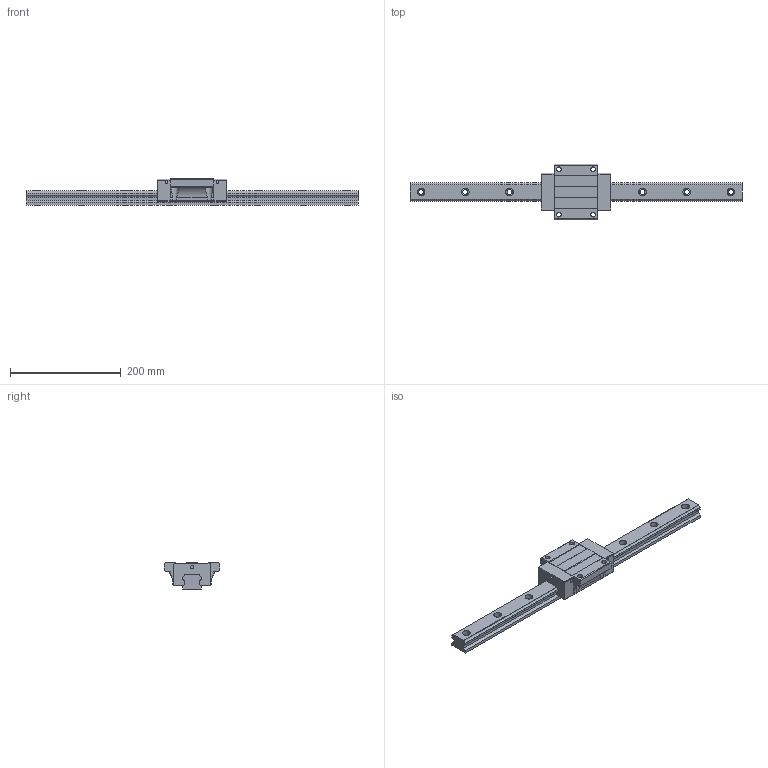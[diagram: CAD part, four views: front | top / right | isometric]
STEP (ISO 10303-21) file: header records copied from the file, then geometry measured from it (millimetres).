
FILE_DESCRIPTION (( 'STEP AP203' ), '1' );
FILE_NAME ('TRH35FN-DU.STEP', '2024-06-28T02:41:21', ( '' ), ( '' ), 'SwSTEP 2.0', 'SolidWorks 2022', '' );
FILE_SCHEMA (( 'CONFIG_CONTROL_DESIGN' ));
Length unit declared in the file: millimetre
Products named in the file (1): TRH35FN-DU
Bounding box: 600 x 100 x 48 mm (x, y, z)
Volume: 752376 mm3; surface area: 127306.8 mm2
Topology: 2 solids, 2 shells, 212 faces, 580 edges, 386 vertices
Faces by surface type: cylinder 112, plane 100
Entity records: 7449 total; most frequent: CARTESIAN_POINT 1801, DIRECTION 1174, ORIENTED_EDGE 1160, EDGE_CURVE 580, AXIS2_PLACEMENT_3D 409, VERTEX_POINT 386, LINE 356, VECTOR 356
